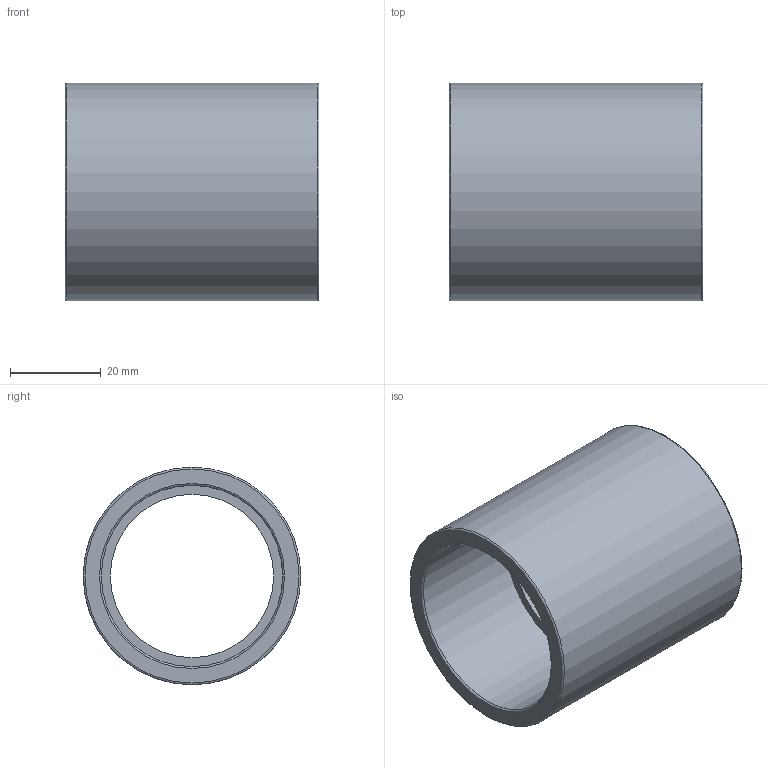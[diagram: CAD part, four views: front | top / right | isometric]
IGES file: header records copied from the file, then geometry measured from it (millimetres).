
Global section: file name: 050100040.ipt; native system: Autodesk Inventor 2015; preprocessor: unknown; author: KIM; date: 20171207.164007; units: millimetre
Bounding box: 56 x 48 x 48 mm (x, y, z)
Volume: 31899.6 mm3; surface area: 16919.9 mm2
Topology: 1 solids, 1 shells, 12 faces, 34 edges, 26 vertices
Faces by surface type: revolution 7, plane 4, cylinder 1
Full cylindrical faces by diameter (mm): 48 x1
